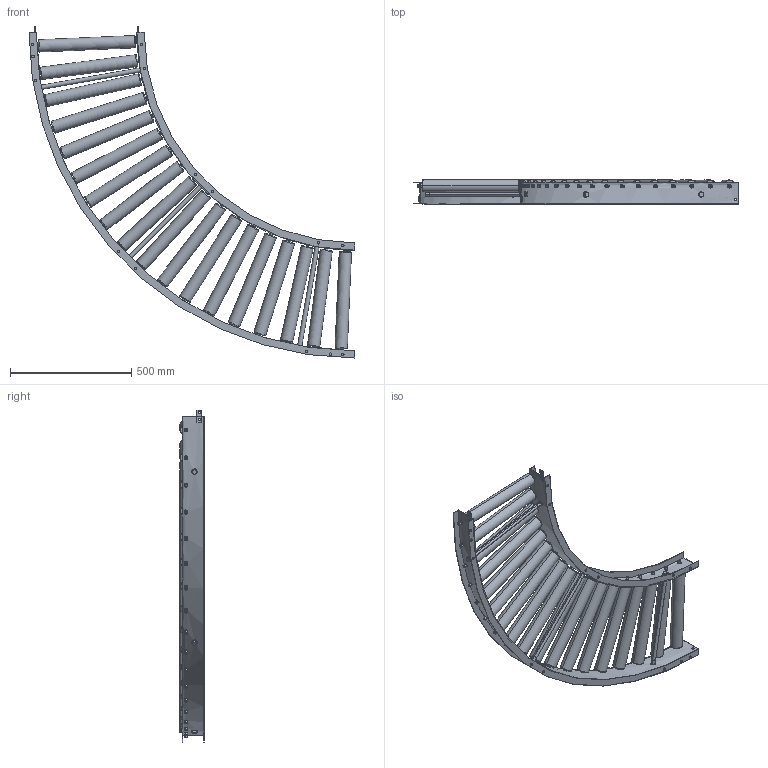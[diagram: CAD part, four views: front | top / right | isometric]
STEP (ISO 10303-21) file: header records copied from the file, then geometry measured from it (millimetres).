
FILE_DESCRIPTION (( 'STEP AP203' ), '1' );
FILE_NAME ('R-5015P_C.step', '2024-03-15T02:33:04', ( '' ), ( '' ), 'SwSTEP 2.0', 'SolidWorks 2023', '' );
FILE_SCHEMA (( 'CONFIG_CONTROL_DESIGN' ));
Length unit declared in the file: millimetre
Products named in the file (1): R-5015P_C
Bounding box: 1345 x 100.4 x 1370.08 mm (x, y, z)
Volume: 15424942.2 mm3; surface area: 3196163.2 mm2
Topology: 55 solids, 55 shells, 820 faces, 1896 edges, 1228 vertices
Faces by surface type: cylinder 406, plane 306, torus 72, cone 36
Entity records: 30605 total; most frequent: CARTESIAN_POINT 11349, DIRECTION 4102, ORIENTED_EDGE 3792, EDGE_CURVE 1896, AXIS2_PLACEMENT_3D 1701, VERTEX_POINT 1228, EDGE_LOOP 1068, CIRCLE 880
